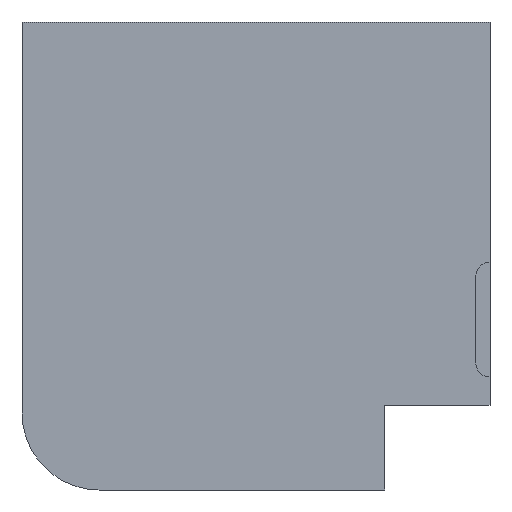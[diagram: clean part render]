
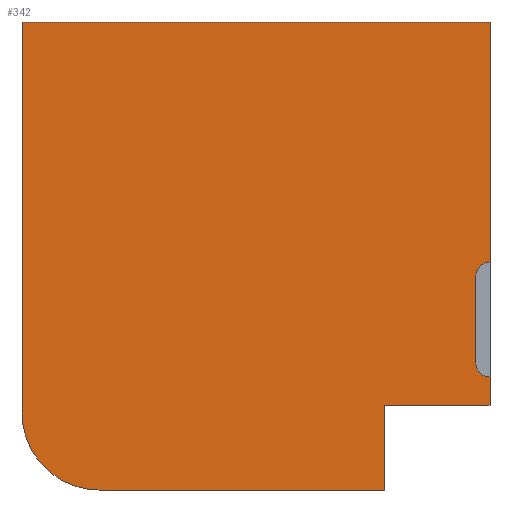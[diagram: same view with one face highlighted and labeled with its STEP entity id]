
A CAD part, left-side view. The second image highlights one B-rep face of the part: STEP entity #342.
In plain terms, the highlighted planar face has unit normal (-1, 0, 0).
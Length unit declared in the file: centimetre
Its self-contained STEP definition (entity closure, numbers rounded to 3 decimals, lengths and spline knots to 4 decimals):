
#1 = EDGE_CURVE ( 'NONE', #597, #488, #297, .T. ) ;
#2 = LINE ( 'NONE', #53, #561 ) ;
#11 = DIRECTION ( 'NONE',  ( 0., 0., -1. ) ) ;
#14 = VERTEX_POINT ( 'NONE', #714 ) ;
#18 = CARTESIAN_POINT ( 'NONE',  ( 0., 0., 1000. ) ) ;
#32 = ORIENTED_EDGE ( 'NONE', *, *, #462, .T. ) ;
#35 = ORIENTED_EDGE ( 'NONE', *, *, #1, .T. ) ;
#40 = ORIENTED_EDGE ( 'NONE', *, *, #260, .F. ) ;
#44 = CIRCLE ( 'NONE', #94, 30.2815 ) ;
#53 = CARTESIAN_POINT ( 'NONE',  ( 0., 1000., 1000. ) ) ;
#82 = VERTEX_POINT ( 'NONE', #649 ) ;
#84 = ORIENTED_EDGE ( 'NONE', *, *, #736, .T. ) ;
#88 = ORIENTED_EDGE ( 'NONE', *, *, #284, .F. ) ;
#90 = CARTESIAN_POINT ( 'NONE',  ( 0., 224.4876, 180.8269 ) ) ;
#94 = AXIS2_PLACEMENT_3D ( 'NONE', #558, #507, #289 ) ;
#100 = VECTOR ( 'NONE', #165, 100. ) ;
#119 = DIRECTION ( 'NONE',  ( 0., 0., -1. ) ) ;
#122 = DIRECTION ( 'NONE',  ( 0., 0., -1. ) ) ;
#127 = ORIENTED_EDGE ( 'NONE', *, *, #656, .F. ) ;
#134 = VERTEX_POINT ( 'NONE', #221 ) ;
#163 = DIRECTION ( 'NONE',  ( 0., 0., -1. ) ) ;
#165 = DIRECTION ( 'NONE',  ( 0., -1., 0. ) ) ;
#174 = DIRECTION ( 'NONE',  ( -1., 0., 0. ) ) ;
#181 = CARTESIAN_POINT ( 'NONE',  ( 0., 30.2815, 456.6311 ) ) ;
#189 = CARTESIAN_POINT ( 'NONE',  ( 0., 224.4876, 0. ) ) ;
#199 = ORIENTED_EDGE ( 'NONE', *, *, #300, .F. ) ;
#221 = CARTESIAN_POINT ( 'NONE',  ( 0., 0., 1000. ) ) ;
#236 = CARTESIAN_POINT ( 'NONE',  ( 0., 0., 180.8269 ) ) ;
#237 = VECTOR ( 'NONE', #455, 100. ) ;
#248 = EDGE_CURVE ( 'NONE', #250, #311, #624, .T. ) ;
#250 = VERTEX_POINT ( 'NONE', #181 ) ;
#252 = VERTEX_POINT ( 'NONE', #408 ) ;
#260 = EDGE_CURVE ( 'NONE', #480, #134, #407, .T. ) ;
#262 = LINE ( 'NONE', #435, #500 ) ;
#265 = DIRECTION ( 'NONE',  ( 0., -1., 0. ) ) ;
#278 = FACE_OUTER_BOUND ( 'NONE', #423, .T. ) ;
#284 = EDGE_CURVE ( 'NONE', #14, #727, #330, .T. ) ;
#285 = CARTESIAN_POINT ( 'NONE',  ( 0., 30.2815, 271.5423 ) ) ;
#289 = DIRECTION ( 'NONE',  ( 0., 0., 1. ) ) ;
#295 = ORIENTED_EDGE ( 'NONE', *, *, #335, .T. ) ;
#297 = LINE ( 'NONE', #189, #675 ) ;
#300 = EDGE_CURVE ( 'NONE', #82, #250, #44, .T. ) ;
#307 = ORIENTED_EDGE ( 'NONE', *, *, #365, .F. ) ;
#310 = EDGE_CURVE ( 'NONE', #480, #420, #2, .T. ) ;
#311 = VERTEX_POINT ( 'NONE', #285 ) ;
#325 = VECTOR ( 'NONE', #122, 100. ) ;
#327 = VECTOR ( 'NONE', #695, 100. ) ;
#330 = LINE ( 'NONE', #572, #325 ) ;
#333 = CARTESIAN_POINT ( 'NONE',  ( 0., 1000., 1000. ) ) ;
#335 = EDGE_CURVE ( 'NONE', #488, #727, #682, .T. ) ;
#342 = ADVANCED_FACE ( 'NONE', ( #278 ), #446, .F. ) ;
#351 = DIRECTION ( 'NONE',  ( 0., 0., 1. ) ) ;
#365 = EDGE_CURVE ( 'NONE', #311, #14, #581, .T. ) ;
#397 = DIRECTION ( 'NONE',  ( 1., 0., 0. ) ) ;
#407 = LINE ( 'NONE', #333, #237 ) ;
#408 = CARTESIAN_POINT ( 'NONE',  ( 0., 835.4456, 0. ) ) ;
#420 = VERTEX_POINT ( 'NONE', #726 ) ;
#423 = EDGE_LOOP ( 'NONE', ( #88, #307, #527, #199, #127, #40, #605, #84, #32, #35, #295 ) ) ;
#435 = CARTESIAN_POINT ( 'NONE',  ( 0., 1000., 0. ) ) ;
#436 = VECTOR ( 'NONE', #11, 100. ) ;
#446 = PLANE ( 'NONE',  #509 ) ;
#455 = DIRECTION ( 'NONE',  ( 0., -1., 0. ) ) ;
#456 = CARTESIAN_POINT ( 'NONE',  ( 0., 30.2815, 456.6311 ) ) ;
#462 = EDGE_CURVE ( 'NONE', #252, #597, #262, .T. ) ;
#480 = VERTEX_POINT ( 'NONE', #666 ) ;
#488 = VERTEX_POINT ( 'NONE', #90 ) ;
#500 = VECTOR ( 'NONE', #265, 100. ) ;
#507 = DIRECTION ( 'NONE',  ( -1., 0., 0. ) ) ;
#509 = AXIS2_PLACEMENT_3D ( 'NONE', #512, #397, #623 ) ;
#512 = CARTESIAN_POINT ( 'NONE',  ( 0., 1000., 1000. ) ) ;
#521 = LINE ( 'NONE', #18, #436 ) ;
#527 = ORIENTED_EDGE ( 'NONE', *, *, #248, .F. ) ;
#558 = CARTESIAN_POINT ( 'NONE',  ( 0., 0., 456.6311 ) ) ;
#561 = VECTOR ( 'NONE', #119, 100. ) ;
#568 = CARTESIAN_POINT ( 'NONE',  ( 0., 0., 271.5423 ) ) ;
#572 = CARTESIAN_POINT ( 'NONE',  ( 0., 0., 1000. ) ) ;
#581 = CIRCLE ( 'NONE', #639, 30.2815 ) ;
#597 = VERTEX_POINT ( 'NONE', #711 ) ;
#604 = CIRCLE ( 'NONE', #691, 164.5544 ) ;
#605 = ORIENTED_EDGE ( 'NONE', *, *, #310, .T. ) ;
#623 = DIRECTION ( 'NONE',  ( 0., 0., -1. ) ) ;
#624 = LINE ( 'NONE', #456, #327 ) ;
#629 = DIRECTION ( 'NONE',  ( 0., 0., 1. ) ) ;
#632 = DIRECTION ( 'NONE',  ( -1., 0., 0. ) ) ;
#639 = AXIS2_PLACEMENT_3D ( 'NONE', #568, #174, #629 ) ;
#649 = CARTESIAN_POINT ( 'NONE',  ( 0., 0., 486.9126 ) ) ;
#656 = EDGE_CURVE ( 'NONE', #134, #82, #521, .T. ) ;
#666 = CARTESIAN_POINT ( 'NONE',  ( 0., 1000., 1000. ) ) ;
#675 = VECTOR ( 'NONE', #351, 100. ) ;
#680 = CARTESIAN_POINT ( 'NONE',  ( 0., 835.4456, 164.5544 ) ) ;
#682 = LINE ( 'NONE', #739, #100 ) ;
#691 = AXIS2_PLACEMENT_3D ( 'NONE', #680, #632, #163 ) ;
#695 = DIRECTION ( 'NONE',  ( 0., 0., -1. ) ) ;
#711 = CARTESIAN_POINT ( 'NONE',  ( 0., 224.4876, 0. ) ) ;
#714 = CARTESIAN_POINT ( 'NONE',  ( 0., 0., 241.2608 ) ) ;
#726 = CARTESIAN_POINT ( 'NONE',  ( 0., 1000., 164.5544 ) ) ;
#727 = VERTEX_POINT ( 'NONE', #236 ) ;
#736 = EDGE_CURVE ( 'NONE', #420, #252, #604, .T. ) ;
#739 = CARTESIAN_POINT ( 'NONE',  ( 0., 0., 180.8269 ) ) ;
